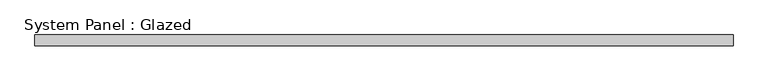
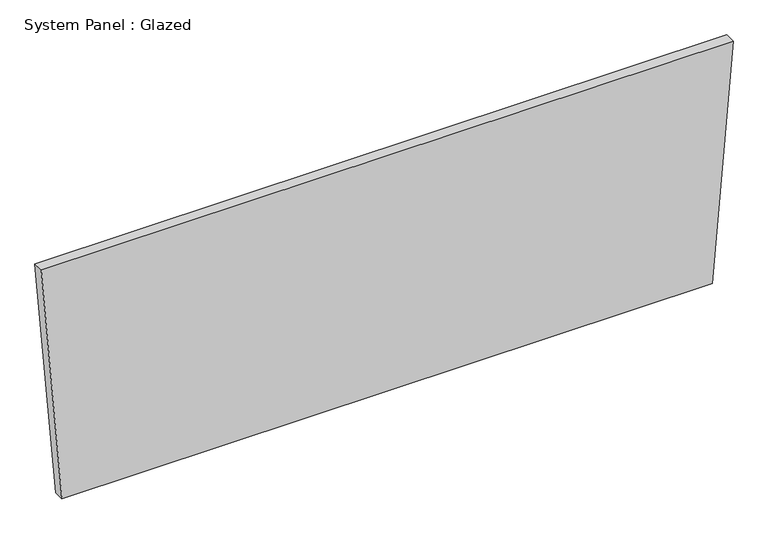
"""IFC4 building model written with IfcOpenShell, lengths in millimetres: plate geometry, System Panel : Glazed."""

import ifcopenshell
import ifcopenshell.guid

model = None  # the IFC model being written
_history = None  # IfcOwnerHistory: only IFC2X3 demands one
_inside = {}  # id of a spatial element -> (the spatial element, [elements in it])
_under = {}  # id of a project, library or spatial element -> (it, [spatial elements below it])
_declared = {}  # id of a project -> (the project, [libraries it declares])
_typed = {}  # id of a type object -> (the type object, [elements of that type])
_made_of = {}  # id of a material, layer set ... -> (it, [elements and type objects made of it])


def new_model(schema):
    """Start an empty IFC model of exactly this schema.

    Asked for "IFC4X3", IfcOpenShell would pick the latest addendum, in which some entities
    have other attributes; the version numbers below select the first issue.
    IFC2X3 requires an IfcOwnerHistory on every rooted entity: one is made here for all.
    """
    global model, _history
    if schema == "IFC4X3":
        model = ifcopenshell.file(schema_version=(4, 3, 0, 0))
    else:
        model = ifcopenshell.file(schema=schema)
    _inside.clear()
    _under.clear()
    _declared.clear()
    _typed.clear()
    _made_of.clear()
    _history = None
    if model.schema == "IFC2X3":
        org = make("IfcOrganization", Name="unknown")
        user = make(
            "IfcPersonAndOrganization",
            ThePerson=make("IfcPerson", FamilyName="unknown"),
            TheOrganization=org,
        )
        app = make(
            "IfcApplication",
            ApplicationDeveloper=org,
            Version="unknown",
            ApplicationFullName="unknown",
            ApplicationIdentifier="unknown",
        )
        _history = make(
            "IfcOwnerHistory",
            OwningUser=user,
            OwningApplication=app,
            ChangeAction="ADDED",
            CreationDate=0,
        )
    return model


def make(cls, **values):
    """One entity of the class cls with the attributes given. An attribute that is None is left unset."""
    return model.create_entity(
        cls, **{name: value for name, value in values.items() if value is not None}
    )


def rooted(cls, **values):
    """An entity with a GlobalId (a new one), such as an element, a storey or a relation."""
    return make(cls, GlobalId=ifcopenshell.guid.new(), OwnerHistory=_history, **values)


def si_unit(unit_type, name, prefix=None):
    """IfcSIUnit, for example si_unit("LENGTHUNIT", "METRE", prefix="MILLI")."""
    return make("IfcSIUnit", UnitType=unit_type, Prefix=prefix, Name=name)


def assignment(units):
    """IfcUnitAssignment: the units of a project."""
    return None if units is None else make("IfcUnitAssignment", Units=units)


def point(xyz):
    """IfcCartesianPoint."""
    return None if xyz is None else make("IfcCartesianPoint", Coordinates=xyz)


def direction(xyz):
    """IfcDirection."""
    return None if xyz is None else make("IfcDirection", DirectionRatios=xyz)


def frame(location, z_axis=None, x_axis=None):
    """IfcAxis2Placement3D, a coordinate frame: its origin and axes. An axis left out is left unset."""
    return make(
        "IfcAxis2Placement3D",
        Location=point(location),
        Axis=direction(z_axis),
        RefDirection=direction(x_axis),
    )


def origin():
    """The frame at (0, 0, 0) with its axes left unset."""
    return frame((0.0, 0.0, 0.0))


def place(relative_to, where):
    """IfcLocalPlacement: puts the frame where relative to a parent placement (None: the world)."""
    return make(
        "IfcLocalPlacement", PlacementRelTo=relative_to, RelativePlacement=where
    )


def context(
    kind, dimensions, precision=None, world=None, true_north=None, identifier=None
):
    """IfcGeometricRepresentationContext, for example the 3D "Model" context."""
    return make(
        "IfcGeometricRepresentationContext",
        ContextIdentifier=identifier,
        ContextType=kind,
        CoordinateSpaceDimension=dimensions,
        Precision=precision,
        WorldCoordinateSystem=world,
        TrueNorth=true_north,
    )


def project(units=None, contexts=None):
    """IfcProject with its units and contexts."""
    return rooted(
        "IfcProject",
        Name="project",
        RepresentationContexts=contexts,
        UnitsInContext=assignment(units),
    )


def spatial(cls, under=None, at=None, **own):
    """A site, building, storey or space (cls), placed at a placement, below another one or the project."""
    s = rooted(cls, ObjectPlacement=at, **own)
    if under is not None:
        _under.setdefault(under.id(), (under, []))[1].append(s)
    return s


def polyline(points):
    """IfcPolyline through the points."""
    return make("IfcPolyline", Points=[point(p) for p in points])


def outline(outer, holes=None, kind="AREA"):
    """IfcArbitraryClosedProfileDef: a profile drawn as a closed curve; with holes, ...WithVoids."""
    if holes is None:
        return make("IfcArbitraryClosedProfileDef", ProfileType=kind, OuterCurve=outer)
    return make(
        "IfcArbitraryProfileDefWithVoids",
        ProfileType=kind,
        OuterCurve=outer,
        InnerCurves=holes,
    )


def extrude(swept, where, along, depth):
    """IfcExtrudedAreaSolid: the profile swept, set in the frame where, extruded along a direction by depth."""
    return make(
        "IfcExtrudedAreaSolid",
        SweptArea=swept,
        Position=where,
        ExtrudedDirection=direction(along),
        Depth=depth,
    )


def shape(context_of_items, identifier, shape_type, items):
    """IfcShapeRepresentation: the items that make up one representation, for example the "Body"."""
    return make(
        "IfcShapeRepresentation",
        ContextOfItems=context_of_items,
        RepresentationIdentifier=identifier,
        RepresentationType=shape_type,
        Items=items,
    )


def source(mapping_origin, context_of_items, identifier, shape_type, items):
    """IfcRepresentationMap: a shape defined once, which mapped items show again and again."""
    return make(
        "IfcRepresentationMap",
        MappingOrigin=mapping_origin,
        MappedRepresentation=shape(context_of_items, identifier, shape_type, items),
    )


def transform(
    local_origin,
    x_axis=None,
    y_axis=None,
    z_axis=None,
    scale=None,
    scale2=None,
    scale3=None,
    uniform=True,
):
    """IfcCartesianTransformationOperator3D, or its non-uniform kind. x_axis, y_axis, z_axis: its Axis1, 2, 3."""
    if uniform:
        return make(
            "IfcCartesianTransformationOperator3D",
            Axis1=direction(x_axis),
            Axis2=direction(y_axis),
            LocalOrigin=point(local_origin),
            Scale=scale,
            Axis3=direction(z_axis),
        )
    return make(
        "IfcCartesianTransformationOperator3DnonUniform",
        Axis1=direction(x_axis),
        Axis2=direction(y_axis),
        LocalOrigin=point(local_origin),
        Scale=scale,
        Axis3=direction(z_axis),
        Scale2=scale2,
        Scale3=scale3,
    )


def mapped(mapping_source, mapping_target):
    """IfcMappedItem: shows the shape of a source again, moved by a transform."""
    return make(
        "IfcMappedItem", MappingSource=mapping_source, MappingTarget=mapping_target
    )


def made_of(thing, what):
    """Note that an element or type object is made of a material, layer set ...; save() writes the relation."""
    if what is not None:
        _made_of.setdefault(what.id(), (what, []))[1].append(thing)
    return thing


def element(
    cls,
    number,
    at=None,
    inside=None,
    cuts=None,
    type_object=None,
    material=None,
    context=None,
    identifier="Body",
    shape_type=None,
    held_by="IfcProductDefinitionShape",
    body=None,
    shapes=None,
    **own,
):
    """One element of the class cls, such as IfcWall. Its Tag is "e" and its number.

    at: its placement. inside: the storey or other place that contains it. cuts: it is an
    opening in that element (IfcRelVoidsElement). A single representation is given by context,
    identifier, shape_type and body (its items); several are given by shapes. held_by: the class
    of the entity that holds the representations. save() writes the other relations.
    """
    e = rooted(cls, Tag="e%d" % number, ObjectPlacement=at, **own)
    if body is not None:
        shapes = [shape(context, identifier, shape_type, body)]
    if shapes is not None:
        e.Representation = make(held_by, Representations=shapes)
    if inside is not None:
        _inside.setdefault(inside.id(), (inside, []))[1].append(e)
    if cuts is not None:
        rooted(
            "IfcRelVoidsElement", RelatingBuildingElement=cuts, RelatedOpeningElement=e
        )
    if type_object is not None:
        _typed.setdefault(type_object.id(), (type_object, []))[1].append(e)
    return made_of(e, material)


def aggregate(whole, parts):
    """IfcRelAggregates: a whole, such as a stair, and the parts it consists of."""
    return rooted("IfcRelAggregates", RelatingObject=whole, RelatedObjects=parts)


def save(model, path):
    """Write the relations noted so far, then the file.

    IfcRelAggregates (storeys below a building ...), IfcRelContainedInSpatialStructure (elements
    in a storey), IfcRelDefinesByType, IfcRelAssociatesMaterial and IfcRelDeclares: one each for
    every whole, place, type object, material and project.
    """
    for whole, parts in _under.values():
        aggregate(whole, parts)
    for where, things in _inside.values():
        rooted(
            "IfcRelContainedInSpatialStructure",
            RelatedElements=things,
            RelatingStructure=where,
        )
    for kind, things in _typed.values():
        rooted("IfcRelDefinesByType", RelatedObjects=things, RelatingType=kind)
    for what, things in _made_of.values():
        rooted("IfcRelAssociatesMaterial", RelatedObjects=things, RelatingMaterial=what)
    for by, libraries in _declared.values():
        rooted("IfcRelDeclares", RelatingContext=by, RelatedDefinitions=libraries)
    model.write(path)


def system_panel_glazed_9f62a084(model_context):
    return source(origin(), model_context, "Body", "SweptSolid", [
        extrude(outline(polyline([(0.0, -759.2262394), (0.0, 759.2262394), (582.1260136, 807.3680975), (582.1260136, -807.3680975), (0.0, -759.2262394)])), frame((0.0, 19.05, 0.0), z_axis=(0.0, 1.0, 0.0), x_axis=(0.0, 0.0, 1.0)), (0.0, 0.0, 1.0), 25.4),
    ])


if __name__ == "__main__":
    model = new_model("IFC4")
    model_context = context("Model", 3, world=origin())
    ifc_project = project(units=[si_unit("LENGTHUNIT", "METRE", prefix="MILLI")], contexts=[model_context])
    site = spatial("IfcSite", under=ifc_project)
    building = spatial("IfcBuilding", under=site)
    placement = place(None, origin())
    system_panel_glazed_shape = system_panel_glazed_9f62a084(model_context)
    element("IfcPlate", 1, ObjectType="System Panel : Glazed", at=placement, inside=building, context=model_context, shape_type="MappedRepresentation", body=[
        mapped(system_panel_glazed_shape, transform((0.0, 0.0, 0.0), x_axis=(1.0, 0.0, 0.0), y_axis=(0.0, 1.0, 0.0), z_axis=(0.0, 0.0, 1.0))),
    ])
    save(model, "model.ifc")
